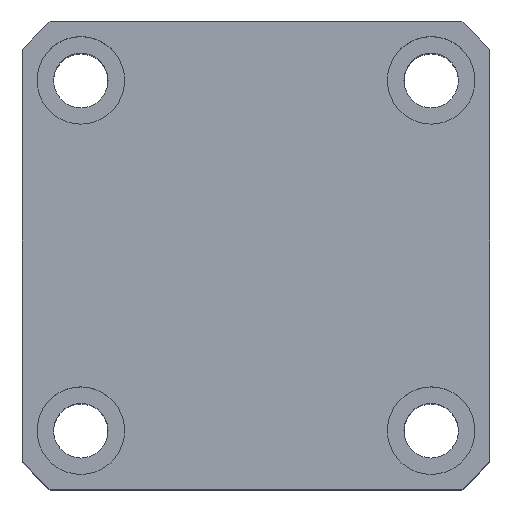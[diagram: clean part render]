
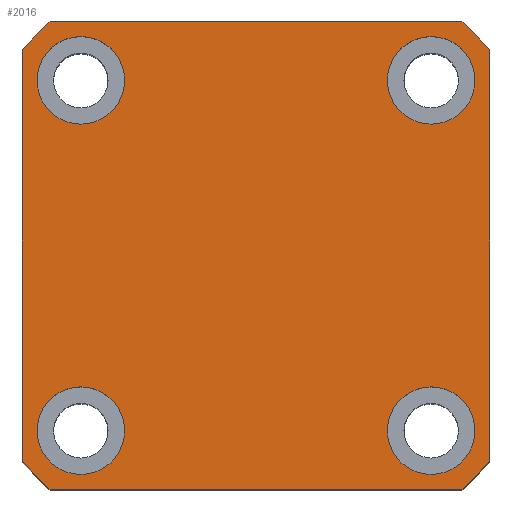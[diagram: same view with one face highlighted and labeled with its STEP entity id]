
A CAD part, top view. The second image highlights one B-rep face of the part: STEP entity #2016.
In plain terms, the highlighted planar face has unit normal (0, 0, 1) as drawn and (1, 0, 0) by its records, which use the part's own axes.
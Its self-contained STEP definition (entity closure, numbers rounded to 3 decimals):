
#8 = EDGE_CURVE ( 'NONE', #7137, #1098, #310, .T. ) ;
#43 = DIRECTION ( 'NONE',  ( 0., 0., -1. ) ) ;
#163 = CIRCLE ( 'NONE', #6917, 4.5 ) ;
#183 = PLANE ( 'NONE',  #783 ) ;
#220 = CARTESIAN_POINT ( 'NONE',  ( 55., 24., 24. ) ) ;
#285 = CARTESIAN_POINT ( 'NONE',  ( 55., 18., -18. ) ) ;
#288 = CARTESIAN_POINT ( 'NONE',  ( 55., -18., -22.5 ) ) ;
#310 = CIRCLE ( 'NONE', #6605, 32. ) ;
#384 = AXIS2_PLACEMENT_3D ( 'NONE', #4208, #495, #4825 ) ;
#451 = VECTOR ( 'NONE', #2430, 1000. ) ;
#465 = CARTESIAN_POINT ( 'NONE',  ( 55., 18., 13.5 ) ) ;
#495 = DIRECTION ( 'NONE',  ( 1., 0., 0. ) ) ;
#520 = ORIENTED_EDGE ( 'NONE', *, *, #1613, .T. ) ;
#524 = AXIS2_PLACEMENT_3D ( 'NONE', #6685, #2956, #7314 ) ;
#638 = CIRCLE ( 'NONE', #2993, 32. ) ;
#744 = ORIENTED_EDGE ( 'NONE', *, *, #6878, .T. ) ;
#783 = AXIS2_PLACEMENT_3D ( 'NONE', #5757, #7663, #3919 ) ;
#882 = AXIS2_PLACEMENT_3D ( 'NONE', #6406, #2676, #7049 ) ;
#900 = DIRECTION ( 'NONE',  ( 0., 0., -1. ) ) ;
#959 = FACE_BOUND ( 'NONE', #4866, .T. ) ;
#1098 = VERTEX_POINT ( 'NONE', #7108 ) ;
#1100 = ORIENTED_EDGE ( 'NONE', *, *, #7393, .T. ) ;
#1205 = CIRCLE ( 'NONE', #5972, 4.5 ) ;
#1224 = CARTESIAN_POINT ( 'NONE',  ( 55., -21.166, 24. ) ) ;
#1330 = AXIS2_PLACEMENT_3D ( 'NONE', #6072, #2355, #6712 ) ;
#1489 = VERTEX_POINT ( 'NONE', #2674 ) ;
#1517 = EDGE_CURVE ( 'NONE', #4796, #6339, #4922, .T. ) ;
#1581 = CARTESIAN_POINT ( 'NONE',  ( 55., 18., 22.5 ) ) ;
#1613 = EDGE_CURVE ( 'NONE', #1098, #4221, #4750, .T. ) ;
#1746 = DIRECTION ( 'NONE',  ( 1., 0., 0. ) ) ;
#1989 = LINE ( 'NONE', #5188, #3640 ) ;
#2016 = ADVANCED_FACE ( 'NONE', ( #959, #5498, #6987, #5318, #3658 ), #183, .T. ) ;
#2147 = DIRECTION ( 'NONE',  ( 0., 0., -1. ) ) ;
#2150 = CARTESIAN_POINT ( 'NONE',  ( 55., 18., -22.5 ) ) ;
#2183 = AXIS2_PLACEMENT_3D ( 'NONE', #5473, #1746, #6094 ) ;
#2251 = EDGE_CURVE ( 'NONE', #7408, #3359, #7681, .T. ) ;
#2279 = VERTEX_POINT ( 'NONE', #4346 ) ;
#2331 = ORIENTED_EDGE ( 'NONE', *, *, #7293, .F. ) ;
#2347 = ORIENTED_EDGE ( 'NONE', *, *, #5068, .F. ) ;
#2355 = DIRECTION ( 'NONE',  ( 1., 0., 0. ) ) ;
#2404 = CARTESIAN_POINT ( 'NONE',  ( 55., 0., 0. ) ) ;
#2430 = DIRECTION ( 'NONE',  ( 0., -1., 0. ) ) ;
#2507 = CARTESIAN_POINT ( 'NONE',  ( 55., 21.166, -24. ) ) ;
#2667 = CIRCLE ( 'NONE', #1330, 4.5 ) ;
#2674 = CARTESIAN_POINT ( 'NONE',  ( 55., -18., 13.5 ) ) ;
#2676 = DIRECTION ( 'NONE',  ( 1., 0., 0. ) ) ;
#2699 = VECTOR ( 'NONE', #3470, 1000. ) ;
#2798 = CARTESIAN_POINT ( 'NONE',  ( 55., 18., -18. ) ) ;
#2908 = CARTESIAN_POINT ( 'NONE',  ( 55., -18., 18. ) ) ;
#2916 = VERTEX_POINT ( 'NONE', #1224 ) ;
#2956 = DIRECTION ( 'NONE',  ( 1., 0., 0. ) ) ;
#2993 = AXIS2_PLACEMENT_3D ( 'NONE', #2404, #6768, #3026 ) ;
#3026 = DIRECTION ( 'NONE',  ( 0., 0., -1. ) ) ;
#3032 = ORIENTED_EDGE ( 'NONE', *, *, #7446, .F. ) ;
#3036 = AXIS2_PLACEMENT_3D ( 'NONE', #285, #4618, #900 ) ;
#3154 = VERTEX_POINT ( 'NONE', #5656 ) ;
#3359 = VERTEX_POINT ( 'NONE', #5401 ) ;
#3470 = DIRECTION ( 'NONE',  ( 0., 1., 0. ) ) ;
#3534 = DIRECTION ( 'NONE',  ( 0., 0., -1. ) ) ;
#3558 = CARTESIAN_POINT ( 'NONE',  ( 55., -18., 18. ) ) ;
#3603 = ORIENTED_EDGE ( 'NONE', *, *, #6349, .F. ) ;
#3640 = VECTOR ( 'NONE', #7722, 1000. ) ;
#3658 = FACE_OUTER_BOUND ( 'NONE', #7758, .T. ) ;
#3738 = LINE ( 'NONE', #6122, #451 ) ;
#3756 = DIRECTION ( 'NONE',  ( 1., 0., 0. ) ) ;
#3919 = DIRECTION ( 'NONE',  ( 0., 0., -1. ) ) ;
#4079 = DIRECTION ( 'NONE',  ( 0., 0., -1. ) ) ;
#4104 = VERTEX_POINT ( 'NONE', #288 ) ;
#4111 = VERTEX_POINT ( 'NONE', #5857 ) ;
#4185 = DIRECTION ( 'NONE',  ( 0., 0., -1. ) ) ;
#4208 = CARTESIAN_POINT ( 'NONE',  ( 55., -18., -18. ) ) ;
#4221 = VERTEX_POINT ( 'NONE', #2507 ) ;
#4264 = CARTESIAN_POINT ( 'NONE',  ( 55., 21.166, 24. ) ) ;
#4346 = CARTESIAN_POINT ( 'NONE',  ( 55., -18., -13.5 ) ) ;
#4481 = ORIENTED_EDGE ( 'NONE', *, *, #7139, .T. ) ;
#4490 = ORIENTED_EDGE ( 'NONE', *, *, #8, .T. ) ;
#4529 = CIRCLE ( 'NONE', #6504, 4.5 ) ;
#4618 = DIRECTION ( 'NONE',  ( 1., 0., 0. ) ) ;
#4681 = ORIENTED_EDGE ( 'NONE', *, *, #7935, .F. ) ;
#4697 = DIRECTION ( 'NONE',  ( 0., 0., 1. ) ) ;
#4750 = LINE ( 'NONE', #7205, #2699 ) ;
#4794 = DIRECTION ( 'NONE',  ( 1., 0., 0. ) ) ;
#4796 = VERTEX_POINT ( 'NONE', #5519 ) ;
#4825 = DIRECTION ( 'NONE',  ( 0., 0., -1. ) ) ;
#4866 = EDGE_LOOP ( 'NONE', ( #6052, #4681 ) ) ;
#4922 = CIRCLE ( 'NONE', #3036, 4.5 ) ;
#5068 = EDGE_CURVE ( 'NONE', #5936, #6622, #6279, .T. ) ;
#5188 = CARTESIAN_POINT ( 'NONE',  ( 55., -24., 24. ) ) ;
#5318 = FACE_BOUND ( 'NONE', #5374, .T. ) ;
#5363 = ORIENTED_EDGE ( 'NONE', *, *, #7559, .T. ) ;
#5374 = EDGE_LOOP ( 'NONE', ( #3032, #2347 ) ) ;
#5401 = CARTESIAN_POINT ( 'NONE',  ( 55., 24., 21.166 ) ) ;
#5422 = CARTESIAN_POINT ( 'NONE',  ( 55., 24., -21.166 ) ) ;
#5473 = CARTESIAN_POINT ( 'NONE',  ( 55., -18., -18. ) ) ;
#5498 = FACE_BOUND ( 'NONE', #7053, .T. ) ;
#5519 = CARTESIAN_POINT ( 'NONE',  ( 55., 18., -13.5 ) ) ;
#5579 = ORIENTED_EDGE ( 'NONE', *, *, #7589, .T. ) ;
#5655 = ORIENTED_EDGE ( 'NONE', *, *, #2251, .T. ) ;
#5656 = CARTESIAN_POINT ( 'NONE',  ( 55., -18., 22.5 ) ) ;
#5757 = CARTESIAN_POINT ( 'NONE',  ( 55., 0., 0. ) ) ;
#5855 = DIRECTION ( 'NONE',  ( 1., 0., 0. ) ) ;
#5857 = CARTESIAN_POINT ( 'NONE',  ( 55., -24., 21.166 ) ) ;
#5936 = VERTEX_POINT ( 'NONE', #1581 ) ;
#5972 = AXIS2_PLACEMENT_3D ( 'NONE', #2798, #5855, #2147 ) ;
#5993 = VECTOR ( 'NONE', #4697, 1000. ) ;
#6052 = ORIENTED_EDGE ( 'NONE', *, *, #7495, .F. ) ;
#6072 = CARTESIAN_POINT ( 'NONE',  ( 55., 18., 18. ) ) ;
#6094 = DIRECTION ( 'NONE',  ( 0., 0., -1. ) ) ;
#6122 = CARTESIAN_POINT ( 'NONE',  ( 55., 24., 24. ) ) ;
#6259 = CIRCLE ( 'NONE', #6655, 32. ) ;
#6279 = CIRCLE ( 'NONE', #882, 4.5 ) ;
#6339 = VERTEX_POINT ( 'NONE', #2150 ) ;
#6349 = EDGE_CURVE ( 'NONE', #6339, #4796, #1205, .T. ) ;
#6406 = CARTESIAN_POINT ( 'NONE',  ( 55., 18., 18. ) ) ;
#6450 = CARTESIAN_POINT ( 'NONE',  ( 55., -24., -21.166 ) ) ;
#6504 = AXIS2_PLACEMENT_3D ( 'NONE', #3558, #7936, #4185 ) ;
#6605 = AXIS2_PLACEMENT_3D ( 'NONE', #7926, #4794, #4079 ) ;
#6622 = VERTEX_POINT ( 'NONE', #465 ) ;
#6655 = AXIS2_PLACEMENT_3D ( 'NONE', #7484, #3756, #43 ) ;
#6685 = CARTESIAN_POINT ( 'NONE',  ( 55., 0., 0. ) ) ;
#6712 = DIRECTION ( 'NONE',  ( 0., 0., -1. ) ) ;
#6768 = DIRECTION ( 'NONE',  ( 1., 0., 0. ) ) ;
#6878 = EDGE_CURVE ( 'NONE', #4221, #7408, #6259, .T. ) ;
#6917 = AXIS2_PLACEMENT_3D ( 'NONE', #2908, #7270, #3534 ) ;
#6987 = FACE_BOUND ( 'NONE', #7486, .T. ) ;
#7049 = DIRECTION ( 'NONE',  ( 0., 0., -1. ) ) ;
#7053 = EDGE_LOOP ( 'NONE', ( #7733, #2331 ) ) ;
#7108 = CARTESIAN_POINT ( 'NONE',  ( 55., -21.166, -24. ) ) ;
#7137 = VERTEX_POINT ( 'NONE', #6450 ) ;
#7139 = EDGE_CURVE ( 'NONE', #4111, #7137, #1989, .T. ) ;
#7205 = CARTESIAN_POINT ( 'NONE',  ( 55., 24., -24. ) ) ;
#7270 = DIRECTION ( 'NONE',  ( 1., 0., 0. ) ) ;
#7293 = EDGE_CURVE ( 'NONE', #3154, #1489, #163, .T. ) ;
#7314 = DIRECTION ( 'NONE',  ( 0., 0., -1. ) ) ;
#7339 = EDGE_CURVE ( 'NONE', #1489, #3154, #4529, .T. ) ;
#7393 = EDGE_CURVE ( 'NONE', #2916, #4111, #7654, .T. ) ;
#7408 = VERTEX_POINT ( 'NONE', #5422 ) ;
#7446 = EDGE_CURVE ( 'NONE', #6622, #5936, #2667, .T. ) ;
#7484 = CARTESIAN_POINT ( 'NONE',  ( 55., 0., 0. ) ) ;
#7486 = EDGE_LOOP ( 'NONE', ( #3603, #7620 ) ) ;
#7495 = EDGE_CURVE ( 'NONE', #4104, #2279, #7863, .T. ) ;
#7549 = VERTEX_POINT ( 'NONE', #4264 ) ;
#7559 = EDGE_CURVE ( 'NONE', #3359, #7549, #638, .T. ) ;
#7589 = EDGE_CURVE ( 'NONE', #7549, #2916, #3738, .T. ) ;
#7620 = ORIENTED_EDGE ( 'NONE', *, *, #1517, .F. ) ;
#7654 = CIRCLE ( 'NONE', #524, 32. ) ;
#7663 = DIRECTION ( 'NONE',  ( 1., 0., 0. ) ) ;
#7681 = LINE ( 'NONE', #220, #5993 ) ;
#7722 = DIRECTION ( 'NONE',  ( 0., 0., -1. ) ) ;
#7733 = ORIENTED_EDGE ( 'NONE', *, *, #7339, .F. ) ;
#7758 = EDGE_LOOP ( 'NONE', ( #520, #744, #5655, #5363, #5579, #1100, #4481, #4490 ) ) ;
#7863 = CIRCLE ( 'NONE', #2183, 4.5 ) ;
#7926 = CARTESIAN_POINT ( 'NONE',  ( 55., 0., 0. ) ) ;
#7935 = EDGE_CURVE ( 'NONE', #2279, #4104, #7948, .T. ) ;
#7936 = DIRECTION ( 'NONE',  ( 1., 0., 0. ) ) ;
#7948 = CIRCLE ( 'NONE', #384, 4.5 ) ;
